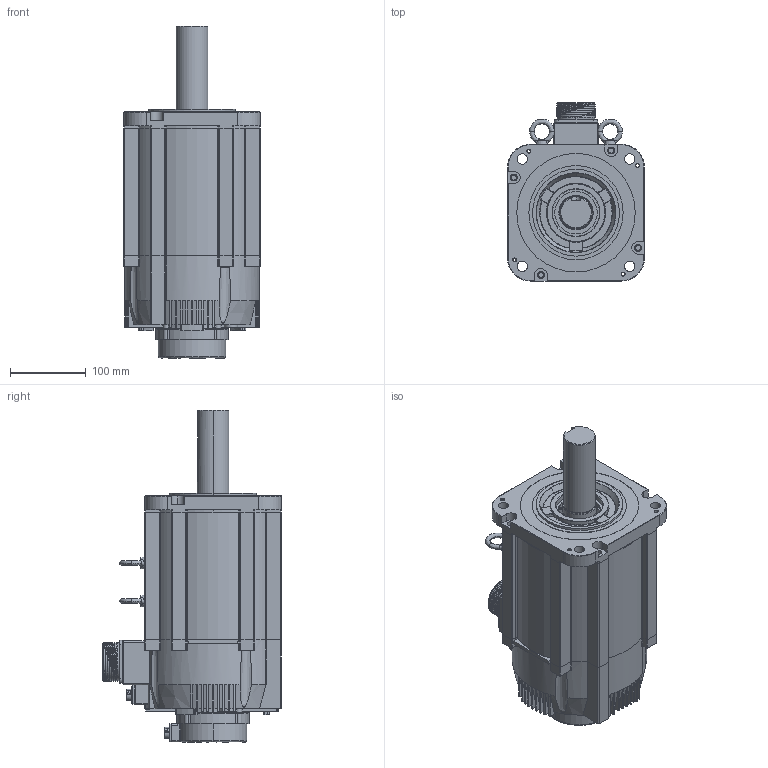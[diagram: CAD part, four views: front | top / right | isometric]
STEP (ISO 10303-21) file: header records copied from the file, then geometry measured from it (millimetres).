
FILE_DESCRIPTION (( 'STEP AP203' ), '1' );
FILE_NAME ('SMP-H750B.STEP', '2021-05-04T05:58:34', ( '' ), ( '' ), 'SwSTEP 2.0', 'SolidWorks 2016', '' );
FILE_SCHEMA (( 'CONFIG_CONTROL_DESIGN' ));
Length unit declared in the file: millimetre
Products named in the file (1): SMP-H750B
Bounding box: 180 x 235.3 x 437 mm (x, y, z)
Surface area: 443033.1 mm2 (no closed solid volume)
Topology: 0 solids, 17 shells, 1018 faces, 3133 edges, 2094 vertices
Faces by surface type: cylinder 459, plane 398, bspline 87, cone 74
Entity records: 47968 total; most frequent: CARTESIAN_POINT 20555, ORIENTED_EDGE 5697, DIRECTION 5632, EDGE_CURVE 3098, AXIS2_PLACEMENT_3D 2125, VERTEX_POINT 2094, VECTOR 1382, LINE 1382
